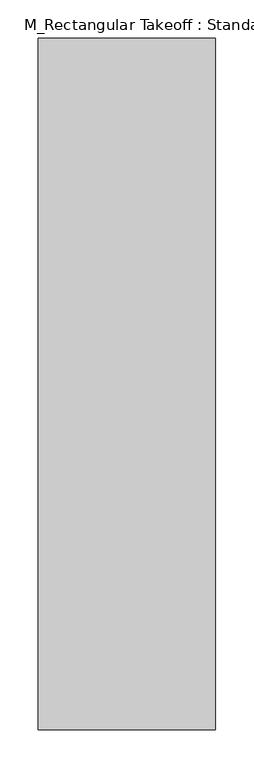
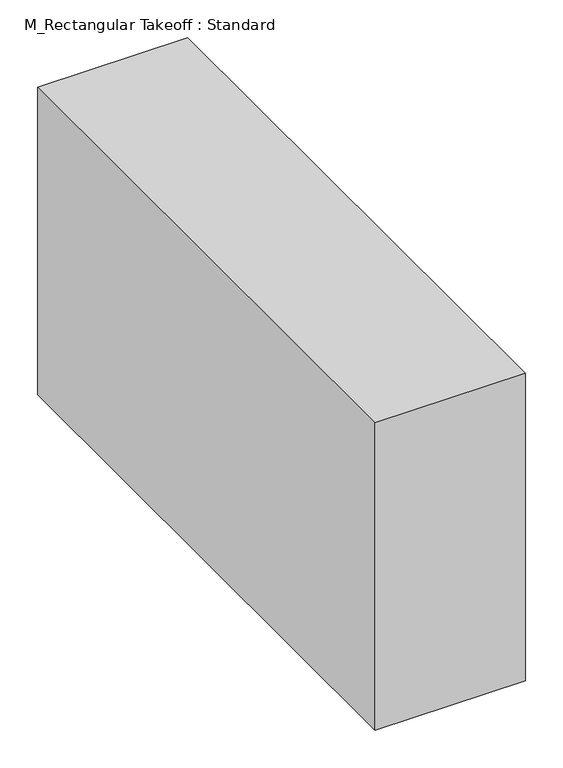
"""IFC4 building model written with IfcOpenShell, lengths in millimetres: duct fitting geometry, M_Rectangular Takeoff : Standard."""

from ifc_helpers import new_model, si_unit, frame, origin, place, context, project, spatial, polyline, outline, extrude, source, transform, mapped, element, save


def m_rectangular_takeoff_standard_6cf4a7e6(model_context):
    return source(origin(), model_context, "Body", "SweptSolid", [
        extrude(outline(polyline([(-6.096, 450.0), (225.0, 450.0), (225.0, -450.0), (-6.096, -450.0), (-6.096, 450.0)])), frame((0.0, 0.0, -250.0), z_axis=(0.0, 0.0, 1.0), x_axis=(1.0, 0.0, 0.0)), (0.0, 0.0, 1.0), 500.0),
        extrude(outline(polyline([(-6.096, 450.0), (225.0, 450.0), (225.0, -450.0), (-6.096, -450.0), (-6.096, 450.0)])), frame((0.0, 0.0, -250.0), z_axis=(0.0, 0.0, 1.0), x_axis=(1.0, 0.0, 0.0)), (0.0, 0.0, 1.0), 500.0),
        extrude(outline(polyline([(-6.096, 450.0), (225.0, 450.0), (225.0, -450.0), (-6.096, -450.0), (-6.096, 450.0)])), frame((0.0, 0.0, -250.0), z_axis=(0.0, 0.0, 1.0), x_axis=(1.0, 0.0, 0.0)), (0.0, 0.0, 1.0), 500.0),
    ])


if __name__ == "__main__":
    model = new_model("IFC4")
    model_context = context("Model", 3, world=origin())
    ifc_project = project(units=[si_unit("LENGTHUNIT", "METRE", prefix="MILLI")], contexts=[model_context])
    site = spatial("IfcSite", under=ifc_project)
    building = spatial("IfcBuilding", under=site)
    placement = place(None, origin())
    m_rectangular_takeoff_standard_shape = m_rectangular_takeoff_standard_6cf4a7e6(model_context)
    element("IfcDuctFitting", 1, ObjectType="M_Rectangular Takeoff : Standard", at=placement, inside=building, context=model_context, shape_type="MappedRepresentation", body=[
        mapped(m_rectangular_takeoff_standard_shape, transform((0.0, 0.0, 0.0), x_axis=(1.0, 0.0, 0.0), y_axis=(0.0, 1.0, 0.0), z_axis=(0.0, 0.0, 1.0))),
    ])
    save(model, "model.ifc")
